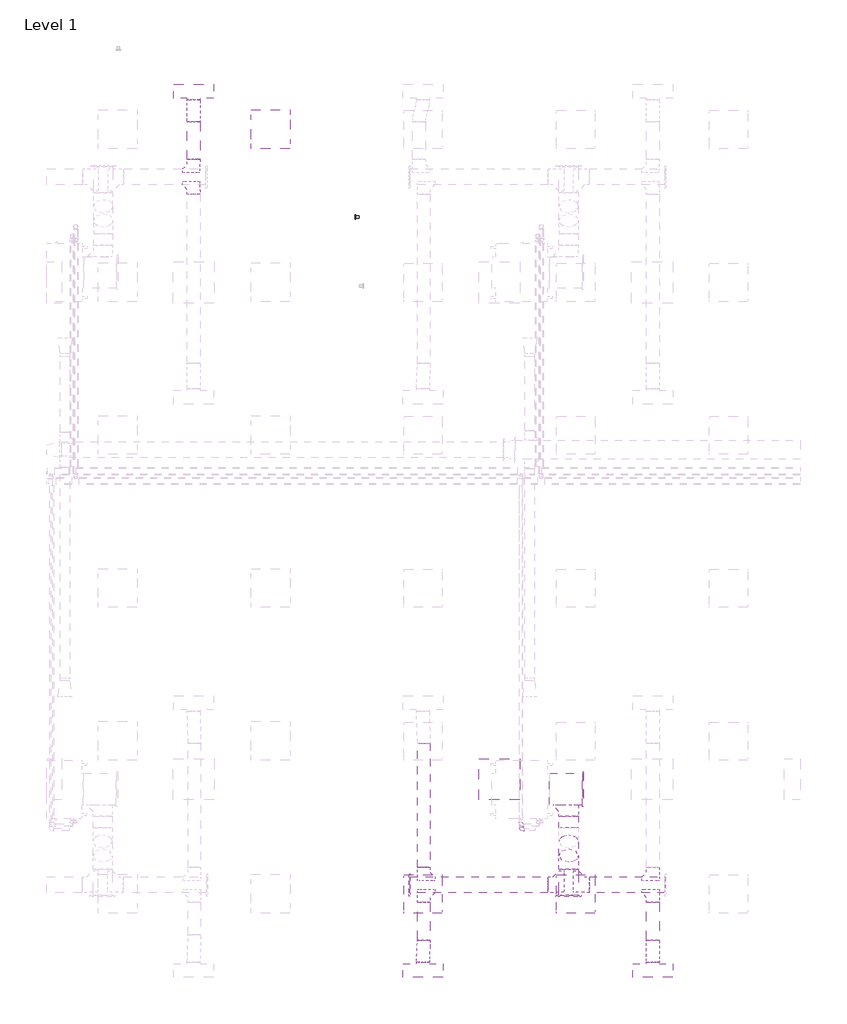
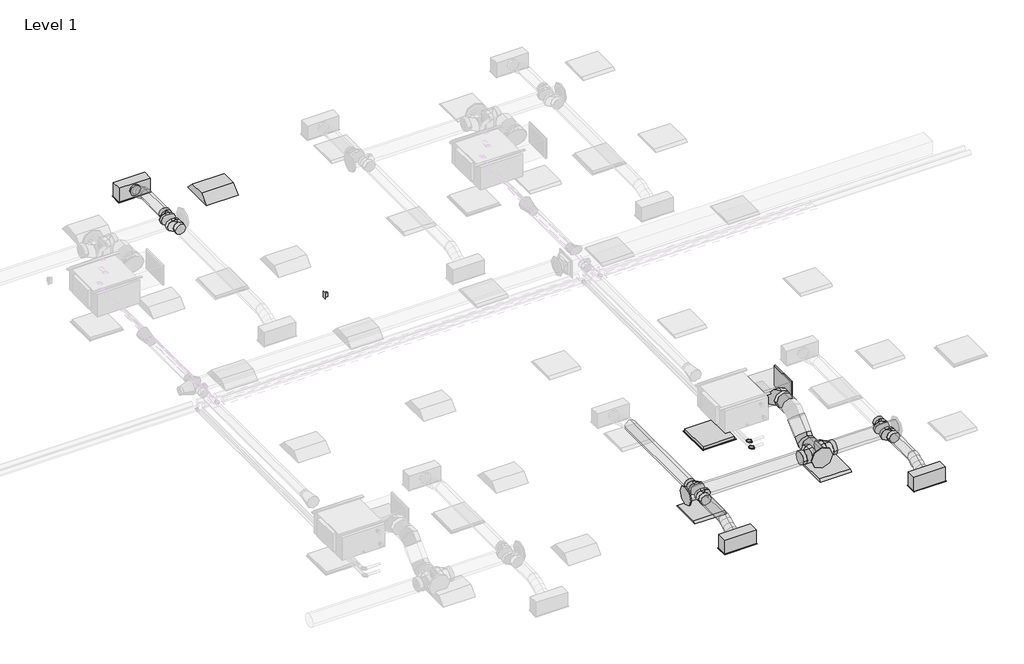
# One storey, part 6 of 30: 13 duct fittings, 13 duct segments, 4 air terminals, 3 light fixtures, 2 pipe fittings, 1 proxy.
"""IFC4 building model written with IfcOpenShell, lengths in millimetres."""

from ifc_helpers import new_model, si_unit, point, frame, frame_2d, origin, place, context, project, spatial, polyline, circle_curve, ellipse_curve, trimmed, segment, composite_curve, outline, extrude, transform, mapped, element, save
from ifc_brep_helpers import plane_surface, cylinder_surface, advanced_brep
from components import return_grille_rectangular_hosted_standard_7b12617c, supply_diffuser_with_plenum_linear_slot_hosted_8c379eed, duplex_receptacle_standard_10251bba, dw144_rectangular_blank_end_standard_8fde7d16, dw144_round_blank_end_standard_f82b0856, dw144_round_blank_end_standard_9aa061e7, dw144_round_segmented_bend_slip_joint_standard_8b80c5ae, dw144_round_shoe_branch_slip_joint1_standard_2_15a2edd8, dw144_round_shoe_branch_slip_joint1_standard_2_559552f4, dw144_round_shoe_branch_slip_joint1_standard_2_7ba9e4ed, dw144_round_shoe_branch_slip_joint1_standard_2_67b64720, light_fixture_1c7c1157, plain_recessed_lighting_fixture_2x2_277_2107ce2d, elbow_threaded_gmi_standard_b4aa7741

model = new_model("IFC4")

# Units and contexts
model_context = context("Model", 3, world=origin())
ifc_project = project(units=[si_unit("LENGTHUNIT", "METRE", prefix="MILLI")], contexts=[model_context])

# Site, building, storey
site = spatial("IfcSite", under=ifc_project)
building = spatial("IfcBuilding", under=site)
storey = spatial("IfcBuildingStorey", under=building, Name="Level 1", Elevation=3900.0)

# Air terminals
placement = place(None, origin())
return_grille_rectangular_hosted_standard_shape = return_grille_rectangular_hosted_standard_7b12617c(model_context)
element("IfcAirTerminal", 1, ObjectType="Return Grille - Rectangular - Hosted : Standard", at=placement, inside=storey, context=model_context, shape_type="MappedRepresentation", body=[
    mapped(return_grille_rectangular_hosted_standard_shape, transform((17562.2000027, 3963.2000004, 6700.0), x_axis=(1.0, 0.0, 0.0), y_axis=(0.0, -1.0, 0.0), z_axis=(0.0, 0.0, -1.0))),
])
supply_diffuser_with_plenum_linear_slot_hosted_shape = supply_diffuser_with_plenum_linear_slot_hosted_8c379eed(model_context)
element("IfcAirTerminal", 2, ObjectType="Supply Diffuser with Plenum - Linear Slot - Hosted : 24\" x 8\"-200 In Inlet  4-Slot", at=placement, inside=storey, context=model_context, shape_type="MappedRepresentation", body=[
    mapped(supply_diffuser_with_plenum_linear_slot_hosted_shape, transform((16362.2000027, 963.2000004, 6700.0), x_axis=(1.0, 0.0, 0.0), y_axis=(0.0, -1.0, 0.0), z_axis=(0.0, 0.0, -1.0))),
])
element("IfcAirTerminal", 3, ObjectType="Supply Diffuser with Plenum - Linear Slot - Hosted : 24\" x 8\"-200 In Inlet  4-Slot", at=placement, inside=storey, context=model_context, shape_type="MappedRepresentation", body=[
    mapped(supply_diffuser_with_plenum_linear_slot_hosted_shape, transform((19973.9000022, 963.2000004, 6700.0), x_axis=(1.0, 0.0, 0.0), y_axis=(0.0, -1.0, 0.0), z_axis=(0.0, 0.0, -1.0))),
])
element("IfcAirTerminal", 4, ObjectType="Supply Diffuser with Plenum - Linear Slot - Hosted : 24\" x 8\"-200 In Inlet  4-Slot", at=placement, inside=storey, context=model_context, shape_type="MappedRepresentation", body=[
    mapped(supply_diffuser_with_plenum_linear_slot_hosted_shape, transform((12762.2000027, 14763.2000004, 6700.0), x_axis=(-1.0, 0.0, 0.0), y_axis=(0.0, 1.0, 0.0), z_axis=(0.0, 0.0, -1.0))),
])

# Proxy
duplex_receptacle_standard_shape = duplex_receptacle_standard_10251bba(model_context)
element("IfcBuildingElementProxy", 5, Name="Duplex Receptacle : Standard", ObjectType="Duplex Receptacle : Standard", at=placement, inside=storey, context=model_context, shape_type="MappedRepresentation", body=[
    mapped(duplex_receptacle_standard_shape, transform((15302.2000024, 12793.416336, 4966.8), x_axis=(0.0, -1.0, 0.0), y_axis=(0.0, 0.0, 1.0), z_axis=(-1.0, 0.0, 0.0))),
])

# Duct fittings
dw144_rectangular_blank_end_standard_shape = dw144_rectangular_blank_end_standard_8fde7d16(model_context)
element("IfcDuctFitting", 6, ObjectType="DW144 Rectangular Blank End : Standard", at=placement, inside=storey, context=model_context, shape_type="MappedRepresentation", body=[
    mapped(dw144_rectangular_blank_end_standard_shape, transform((18866.2561025, 3806.0000004, 7376.3911538), x_axis=(1.0, 0.0, 0.0), y_axis=(0.0, 1.0, 0.0), z_axis=(0.0, 0.0, 1.0))),
])
dw144_round_blank_end_standard_shape = dw144_round_blank_end_standard_f82b0856(model_context)
element("IfcDuctFitting", 7, ObjectType="DW144 Round Blank End : Standard", at=placement, inside=storey, context=model_context, shape_type="MappedRepresentation", body=[
    mapped(dw144_round_blank_end_standard_shape, transform((18651.4561025, 2142.9916128, 6972.2088531), x_axis=(0.0, -1.0, 0.0), y_axis=(1.0, 0.0, 0.0), z_axis=(0.0, 0.0, 1.0))),
])
dw144_round_blank_end_standard_2_shape = dw144_round_blank_end_standard_9aa061e7(model_context)
element("IfcDuctFitting", 8, ObjectType="DW144 Round Blank End : Standard", at=placement, inside=storey, context=model_context, shape_type="MappedRepresentation", body=[
    mapped(dw144_round_blank_end_standard_2_shape, transform((16161.4561025, 2306.5018192, 6972.2088531), x_axis=(-1.0, 0.0, 0.0), y_axis=(0.0, -1.0, 0.0), z_axis=(0.0, 0.0, 1.0))),
])
dw144_round_segmented_bend_slip_joint_standard_shape = dw144_round_segmented_bend_slip_joint_standard_8b80c5ae(model_context)
element("IfcDuctFitting", 9, ObjectType="DW144 Round Segmented Bend - Slip Joint : Standard", at=placement, inside=storey, context=model_context, shape_type="MappedRepresentation", body=[
    mapped(dw144_round_segmented_bend_slip_joint_standard_shape, transform((18651.4561025, 2678.6338536, 6972.2088531), x_axis=(0.0, -0.7071067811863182, -0.7071067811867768), y_axis=(0.0, 0.7071067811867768, -0.7071067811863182), z_axis=(1.0, 0.0, 0.0))),
])
dw144_round_shoe_branch_slip_joint1_standard_2_shape = dw144_round_shoe_branch_slip_joint1_standard_2_15a2edd8(model_context)
element("IfcDuctFitting", 10, ObjectType="DW144 Round Shoe Branch - Slip Joint1 : Standard 2", at=placement, inside=storey, context=model_context, shape_type="MappedRepresentation", body=[
    mapped(dw144_round_shoe_branch_slip_joint1_standard_2_shape, transform((12762.2000027, 13544.8981817, 6972.2088531), x_axis=(0.0, 1.0, 0.0), y_axis=(1.0, 0.0, 0.0), z_axis=(0.0, 0.0, -1.0))),
])
element("IfcDuctFitting", 11, ObjectType="DW144 Round Shoe Branch - Slip Joint1 : Standard 2", at=placement, inside=storey, context=model_context, shape_type="MappedRepresentation", body=[
    mapped(dw144_round_shoe_branch_slip_joint1_standard_2_shape, transform((12762.2000027, 13294.8981817, 6972.2088531), x_axis=(0.0, -1.0, 0.0), y_axis=(1.0, 0.0, 0.0), z_axis=(0.0, 0.0, 1.0))),
])
element("IfcDuctFitting", 12, ObjectType="DW144 Round Shoe Branch - Slip Joint1 : Standard 2", at=placement, inside=storey, context=model_context, shape_type="MappedRepresentation", body=[
    mapped(dw144_round_shoe_branch_slip_joint1_standard_2_shape, transform((16373.9000022, 2181.5018192, 6972.2088531), x_axis=(0.0, -1.0, 0.0), y_axis=(-1.0, 0.0, 0.0), z_axis=(0.0, 0.0, -1.0))),
])
element("IfcDuctFitting", 13, ObjectType="DW144 Round Shoe Branch - Slip Joint1 : Standard 2", at=placement, inside=storey, context=model_context, shape_type="MappedRepresentation", body=[
    mapped(dw144_round_shoe_branch_slip_joint1_standard_2_shape, transform((16373.9000022, 2431.5018192, 6972.2088531), x_axis=(0.0, 1.0, 0.0), y_axis=(-1.0, 0.0, 0.0), z_axis=(0.0, 0.0, 1.0))),
])
dw144_round_shoe_branch_slip_joint1_standard_2_2_shape = dw144_round_shoe_branch_slip_joint1_standard_2_559552f4(model_context)
element("IfcDuctFitting", 14, ObjectType="DW144 Round Shoe Branch - Slip Joint1 : Standard 2", at=placement, inside=storey, context=model_context, shape_type="MappedRepresentation", body=[
    mapped(dw144_round_shoe_branch_slip_joint1_standard_2_2_shape, transform((19973.9000022, 2181.5018192, 6972.2088531), x_axis=(0.0, -1.0, 0.0), y_axis=(-1.0, 0.0, 0.0), z_axis=(0.0, 0.0, -1.0))),
])
element("IfcDuctFitting", 15, ObjectType="DW144 Round Shoe Branch - Slip Joint1 : Standard 2", at=placement, inside=storey, context=model_context, shape_type="MappedRepresentation", body=[
    mapped(dw144_round_shoe_branch_slip_joint1_standard_2_2_shape, transform((19973.9000022, 2431.5018192, 6972.2088531), x_axis=(0.0, 1.0, 0.0), y_axis=(-1.0, 0.0, 0.0), z_axis=(0.0, 0.0, 1.0))),
])
dw144_round_shoe_branch_slip_joint1_standard_2_3_shape = dw144_round_shoe_branch_slip_joint1_standard_2_7ba9e4ed(model_context)
element("IfcDuctFitting", 16, ObjectType="DW144 Round Shoe Branch - Slip Joint1 : Standard 2", at=placement, inside=storey, context=model_context, shape_type="MappedRepresentation", body=[
    mapped(dw144_round_shoe_branch_slip_joint1_standard_2_3_shape, transform((18651.4561025, 3556.0000004, 7369.575), x_axis=(0.0, -1.0, 0.0), y_axis=(-1.0, 0.0, 0.0), z_axis=(0.0, 0.0, -1.0))),
])
dw144_round_shoe_branch_slip_joint1_standard_2_4_shape = dw144_round_shoe_branch_slip_joint1_standard_2_67b64720(model_context)
element("IfcDuctFitting", 17, ObjectType="DW144 Round Shoe Branch - Slip Joint1 : Standard 2", at=placement, inside=storey, context=model_context, shape_type="MappedRepresentation", body=[
    mapped(dw144_round_shoe_branch_slip_joint1_standard_2_4_shape, transform((18801.4561025, 2306.5018192, 6972.2088531), x_axis=(1.0, 0.0, 0.0), y_axis=(0.0, -1.0, 0.0), z_axis=(0.0, 0.0, -1.0))),
])
element("IfcDuctFitting", 18, ObjectType="DW144 Round Shoe Branch - Slip Joint1 : Standard 2", at=placement, inside=storey, context=model_context, shape_type="MappedRepresentation", body=[
    mapped(dw144_round_shoe_branch_slip_joint1_standard_2_4_shape, transform((18501.4561025, 2306.5018192, 6972.2088531), x_axis=(-1.0, 0.0, 0.0), y_axis=(0.0, -1.0, 0.0), z_axis=(0.0, 0.0, 1.0))),
])

# Duct segments
element("IfcDuctSegment", 19, ObjectType="DW144 Flanged Med Radius Bend / Shoe Branch", at=placement, inside=storey, context=model_context, shape_type="SweptSolid", body=[
    extrude(outline(polyline([(18346.6561025, 3556.0000004), (18346.6561025, 4056.0000004), (18866.2561025, 4056.0000004), (18866.2561025, 3556.0000004), (18346.6561025, 3556.0000004)])), frame((0.0, 0.0, 7201.3911538), z_axis=(0.0, 0.0, 1.0), x_axis=(1.0, 0.0, 0.0)), (0.0, 0.0, 1.0), 350.0),
])
element("IfcDuctSegment", 20, ObjectType="DW144 Segmented Bend / Shoe Branch", at=placement, inside=storey, context=model_context, shape_type="SweptSolid", body=[
    extrude(outline(composite_curve([segment(trimmed(circle_curve(frame_2d((6972.2088531, 12762.2000027)), 100.0), [point((6972.2088531, 12862.2000027))], [point((7072.2088531, 12762.2000027))], False, "CARTESIAN"), True, "CONTINUOUS"), segment(trimmed(circle_curve(frame_2d((6972.2088531, 12762.2000027)), 100.0), [point((7072.2088531, 12762.2000027))], [point((6972.2088531, 12662.2000027))], False, "CARTESIAN"), True, "CONTINUOUS"), segment(trimmed(circle_curve(frame_2d((6972.2088531, 12762.2000027)), 100.0), [point((6972.2088531, 12662.2000027))], [point((6872.2088531, 12762.2000027))], False, "CARTESIAN"), True, "CONTINUOUS"), segment(trimmed(circle_curve(frame_2d((6972.2088531, 12762.2000027)), 100.0), [point((6872.2088531, 12762.2000027))], [point((6972.2088531, 12862.2000027))], False, "CARTESIAN"), True, "CONTINUOUS")], self_intersect=False)), frame((0.0, 13694.8981817, 0.0), z_axis=(0.0, 1.0, 0.0), x_axis=(0.0, 0.0, 1.0)), (0.0, 0.0, 1.0), 590.0),
])
element("IfcDuctSegment", 21, ObjectType="DW144 Segmented Bend / Shoe Branch", at=placement, inside=storey, context=model_context, shape_type="SweptSolid", body=[
    extrude(outline(composite_curve([segment(trimmed(circle_curve(frame_2d((7369.575, 18651.4561025)), 150.0), [point((7369.575, 18501.4561025))], [point((7219.575, 18651.4561025))], False, "CARTESIAN"), True, "CONTINUOUS"), segment(trimmed(circle_curve(frame_2d((7369.575, 18651.4561025)), 150.0), [point((7219.575, 18651.4561025))], [point((7369.575, 18801.4561025))], False, "CARTESIAN"), True, "CONTINUOUS"), segment(trimmed(circle_curve(frame_2d((7369.575, 18651.4561025)), 150.0), [point((7369.575, 18801.4561025))], [point((7519.575, 18651.4561025))], False, "CARTESIAN"), True, "CONTINUOUS"), segment(trimmed(circle_curve(frame_2d((7369.575, 18651.4561025)), 150.0), [point((7519.575, 18651.4561025))], [point((7369.575, 18501.4561025))], False, "CARTESIAN"), True, "CONTINUOUS")], self_intersect=False)), frame((0.0, 3200.2640691, 0.0), z_axis=(0.0, 1.0, 0.0), x_axis=(0.0, 0.0, 1.0)), (0.0, 0.0, 1.0), 180.7359313),
])
element("IfcDuctSegment", 22, ObjectType="DW144 Segmented Bend / Shoe Branch", at=placement, inside=storey, context=model_context, shape_type="SweptSolid", body=[
    extrude(outline(composite_curve([segment(trimmed(circle_curve(frame_2d((6972.2088531, 18651.4561025)), 150.0), [point((6972.2088531, 18501.4561025))], [point((6822.2088531, 18651.4561025))], False, "CARTESIAN"), True, "CONTINUOUS"), segment(trimmed(circle_curve(frame_2d((6972.2088531, 18651.4561025)), 150.0), [point((6822.2088531, 18651.4561025))], [point((6972.2088531, 18801.4561025))], False, "CARTESIAN"), True, "CONTINUOUS"), segment(trimmed(circle_curve(frame_2d((6972.2088531, 18651.4561025)), 150.0), [point((6972.2088531, 18801.4561025))], [point((7122.2088531, 18651.4561025))], False, "CARTESIAN"), True, "CONTINUOUS"), segment(trimmed(circle_curve(frame_2d((6972.2088531, 18651.4561025)), 150.0), [point((7122.2088531, 18651.4561025))], [point((6972.2088531, 18501.4561025))], False, "CARTESIAN"), True, "CONTINUOUS")], self_intersect=False)), frame((0.0, 2142.9916128, 0.0), z_axis=(0.0, 1.0, 0.0), x_axis=(0.0, 0.0, 1.0)), (0.0, 0.0, 1.0), 411.3781721),
])
element("IfcDuctSegment", 23, ObjectType="DW144 Segmented Bend / Shoe Branch", at=placement, inside=storey, context=model_context, shape_type="SweptSolid", body=[
    extrude(outline(composite_curve([segment(trimmed(circle_curve(frame_2d((0.0, -150.0)), 150.0), [point((-150.0, -150.0))], [point((0.0, 0.0))], False, "CARTESIAN"), True, "CONTINUOUS"), segment(trimmed(circle_curve(frame_2d((0.0, -150.0)), 150.0), [point((0.0, 0.0))], [point((150.0, -150.0))], False, "CARTESIAN"), True, "CONTINUOUS"), segment(trimmed(circle_curve(frame_2d((0.0, -150.0)), 150.0), [point((150.0, -150.0))], [point((0.0, -300.0))], False, "CARTESIAN"), True, "CONTINUOUS"), segment(trimmed(circle_curve(frame_2d((0.0, -150.0)), 150.0), [point((0.0, -300.0))], [point((-150.0, -150.0))], False, "CARTESIAN"), True, "CONTINUOUS")], self_intersect=False)), frame((18651.4561025, 2872.5678364, 6954.0108016), z_axis=(0.0, 0.7071067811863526, 0.7071067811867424), x_axis=(1.0, 0.0, 0.0)), (0.0, 0.0, 1.0), 313.4324567),
])
element("IfcDuctSegment", 24, ObjectType="DW144 Segmented Bend / Shoe Branch", at=placement, inside=storey, context=model_context, shape_type="SweptSolid", body=[
    extrude(outline(composite_curve([segment(trimmed(circle_curve(frame_2d((2306.5018192, 6972.2088531)), 125.0), [point((2181.5018192, 6972.2088531))], [point((2306.5018192, 7097.2088531))], False, "CARTESIAN"), True, "CONTINUOUS"), segment(trimmed(circle_curve(frame_2d((2306.5018192, 6972.2088531)), 125.0), [point((2306.5018192, 7097.2088531))], [point((2431.5018192, 6972.2088531))], False, "CARTESIAN"), True, "CONTINUOUS"), segment(trimmed(circle_curve(frame_2d((2306.5018192, 6972.2088531)), 125.0), [point((2431.5018192, 6972.2088531))], [point((2306.5018192, 6847.2088531))], False, "CARTESIAN"), True, "CONTINUOUS"), segment(trimmed(circle_curve(frame_2d((2306.5018192, 6972.2088531)), 125.0), [point((2306.5018192, 6847.2088531))], [point((2181.5018192, 6972.2088531))], False, "CARTESIAN"), True, "CONTINUOUS")], self_intersect=False)), frame((18976.4561025, 0.0, 0.0), z_axis=(1.0, 0.0, 0.0), x_axis=(0.0, 1.0, 0.0)), (0.0, 0.0, 1.0), 1185.0),
])
element("IfcDuctSegment", 25, ObjectType="DW144 Segmented Bend / Shoe Branch", at=placement, inside=storey, context=model_context, shape_type="SweptSolid", body=[
    extrude(outline(composite_curve([segment(trimmed(circle_curve(frame_2d((2306.5018192, 6972.2088531)), 125.0), [point((2431.5018192, 6972.2088531))], [point((2306.5018192, 6847.2088531))], False, "CARTESIAN"), True, "CONTINUOUS"), segment(trimmed(circle_curve(frame_2d((2306.5018192, 6972.2088531)), 125.0), [point((2306.5018192, 6847.2088531))], [point((2181.5018192, 6972.2088531))], False, "CARTESIAN"), True, "CONTINUOUS"), segment(trimmed(circle_curve(frame_2d((2306.5018192, 6972.2088531)), 125.0), [point((2181.5018192, 6972.2088531))], [point((2306.5018192, 7097.2088531))], False, "CARTESIAN"), True, "CONTINUOUS"), segment(trimmed(circle_curve(frame_2d((2306.5018192, 6972.2088531)), 125.0), [point((2306.5018192, 7097.2088531))], [point((2431.5018192, 6972.2088531))], False, "CARTESIAN"), True, "CONTINUOUS")], self_intersect=False)), frame((16161.4561025, 0.0, 0.0), z_axis=(1.0, 0.0, 0.0), x_axis=(0.0, 1.0, 0.0)), (0.0, 0.0, 1.0), 2165.0),
])
element("IfcDuctSegment", 26, ObjectType="DW144 Segmented Bend / Shoe Branch", at=placement, inside=storey, context=model_context, shape_type="SweptSolid", body=[
    extrude(outline(composite_curve([segment(trimmed(circle_curve(frame_2d((6972.2088531, 19973.9000022)), 100.0), [point((6972.2088531, 19873.9000022))], [point((6872.2088531, 19973.9000022))], False, "CARTESIAN"), True, "CONTINUOUS"), segment(trimmed(circle_curve(frame_2d((6972.2088531, 19973.9000022)), 100.0), [point((6872.2088531, 19973.9000022))], [point((6972.2088531, 20073.9000022))], False, "CARTESIAN"), True, "CONTINUOUS"), segment(trimmed(circle_curve(frame_2d((6972.2088531, 19973.9000022)), 100.0), [point((6972.2088531, 20073.9000022))], [point((7072.2088531, 19973.9000022))], False, "CARTESIAN"), True, "CONTINUOUS"), segment(trimmed(circle_curve(frame_2d((6972.2088531, 19973.9000022)), 100.0), [point((7072.2088531, 19973.9000022))], [point((6972.2088531, 19873.9000022))], False, "CARTESIAN"), True, "CONTINUOUS")], self_intersect=False)), frame((0.0, 1441.5018192, 0.0), z_axis=(0.0, 1.0, 0.0), x_axis=(0.0, 0.0, 1.0)), (0.0, 0.0, 1.0), 590.0),
])
element("IfcDuctSegment", 27, ObjectType="DW144 Segmented Bend / Shoe Branch", at=placement, inside=storey, context=model_context, shape_type="SweptSolid", body=[
    extrude(outline(composite_curve([segment(trimmed(circle_curve(frame_2d((6972.2088531, 16373.9000022)), 100.0), [point((6972.2088531, 16473.9000022))], [point((7072.2088531, 16373.9000022))], False, "CARTESIAN"), True, "CONTINUOUS"), segment(trimmed(circle_curve(frame_2d((6972.2088531, 16373.9000022)), 100.0), [point((7072.2088531, 16373.9000022))], [point((6972.2088531, 16273.9000022))], False, "CARTESIAN"), True, "CONTINUOUS"), segment(trimmed(circle_curve(frame_2d((6972.2088531, 16373.9000022)), 100.0), [point((6972.2088531, 16273.9000022))], [point((6872.2088531, 16373.9000022))], False, "CARTESIAN"), True, "CONTINUOUS"), segment(trimmed(circle_curve(frame_2d((6972.2088531, 16373.9000022)), 100.0), [point((6872.2088531, 16373.9000022))], [point((6972.2088531, 16473.9000022))], False, "CARTESIAN"), True, "CONTINUOUS")], self_intersect=False)), frame((0.0, 1441.5018192, 0.0), z_axis=(0.0, 1.0, 0.0), x_axis=(0.0, 0.0, 1.0)), (0.0, 0.0, 1.0), 590.0),
])
element("IfcDuctSegment", 28, ObjectType="DW144 Segmented Bend / Shoe Branch", at=placement, inside=storey, context=model_context, shape_type="SweptSolid", body=[
    extrude(outline(composite_curve([segment(trimmed(circle_curve(frame_2d((6972.2088531, 16373.9000022)), 100.0), [point((6972.2088531, 16473.9000022))], [point((7072.2088531, 16373.9000022))], False, "CARTESIAN"), True, "CONTINUOUS"), segment(trimmed(circle_curve(frame_2d((6972.2088531, 16373.9000022)), 100.0), [point((7072.2088531, 16373.9000022))], [point((6972.2088531, 16273.9000022))], False, "CARTESIAN"), True, "CONTINUOUS"), segment(trimmed(circle_curve(frame_2d((6972.2088531, 16373.9000022)), 100.0), [point((6972.2088531, 16273.9000022))], [point((6872.2088531, 16373.9000022))], False, "CARTESIAN"), True, "CONTINUOUS"), segment(trimmed(circle_curve(frame_2d((6972.2088531, 16373.9000022)), 100.0), [point((6872.2088531, 16373.9000022))], [point((6972.2088531, 16473.9000022))], False, "CARTESIAN"), True, "CONTINUOUS")], self_intersect=False)), frame((0.0, 2581.5018192, 0.0), z_axis=(0.0, 1.0, 0.0), x_axis=(0.0, 0.0, 1.0)), (0.0, 0.0, 1.0), 1950.0),
])
element("IfcDuctSegment", 29, ObjectType="Flex - Round", at=placement, inside=storey, context=model_context, shape_type="AdvancedBrep", body=[
    advanced_brep(
    [(12662.2000027, 14284.8981817, 6972.2088531), (12762.2000027, 14284.8981817, 6872.2088531), (12862.2000027, 14284.8981817, 6972.2088531), (12762.2000027, 14284.8981817, 7072.2088531), (12662.2000027, 14305.1168804, 6972.2088531), (12762.2000027, 14291.9969011, 6872.2088531), (12862.2000027, 14305.1168804, 6972.2088531), (12762.2000027, 14318.2368598, 7072.2088531), (12662.2000027, 14634.3000004, 6854.4), (12762.2000027, 14634.3000004, 6954.4), (12862.2000027, 14634.3000004, 6854.4), (12762.2000027, 14634.3000004, 6754.4), (12662.2000027, 14374.0604937, 6953.8012198), (12762.2000027, 14339.4842635, 6859.5299419), (12862.2000027, 14374.0604937, 6953.8012198), (12762.2000027, 14408.6367238, 7048.0724978), (12662.2000027, 14459.599091, 6913.3044266), (12762.2000027, 14416.809003, 6822.9218599), (12862.2000027, 14459.599091, 6913.3044266), (12762.2000027, 14502.3891791, 7003.6869932), (12662.2000027, 14545.1376884, 6872.8076333), (12762.2000027, 14510.5614583, 6778.5363553), (12862.2000027, 14545.1376884, 6872.8076333), (12762.2000027, 14579.7139186, 6967.0789113), (12662.2000027, 14614.0813017, 6854.4), (12762.2000027, 14600.9613223, 6754.4), (12862.2000027, 14614.0813017, 6854.4), (12762.2000027, 14627.201281, 6954.4)],
    [
        (0, 1, circle_curve(frame((12762.2000027, 14284.8981817, 6972.2088531), z_axis=(0.0, -1.0, 0.0), x_axis=(-1.0, 0.0, 0.0)), 100.0)),
        (1, 2, circle_curve(frame((12762.2000027, 14284.8981817, 6972.2088531), z_axis=(0.0, -1.0, 0.0), x_axis=(-1.0, 0.0, 0.0)), 100.0)),
        (2, 3, circle_curve(frame((12762.2000027, 14284.8981817, 6972.2088531), z_axis=(0.0, -1.0, 0.0), x_axis=(-1.0, 0.0, 0.0)), 100.0)),
        (3, 0, circle_curve(frame((12762.2000027, 14284.8981817, 6972.2088531), z_axis=(0.0, -1.0, 0.0), x_axis=(-1.0, 0.0, 0.0)), 100.0)),
        (0, 4),
        (4, 5, ellipse_curve(frame((12762.2000027, 14305.1168804, 6972.2088531), z_axis=(0.0, -0.9915028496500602, 0.1300849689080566), x_axis=(0.0, -0.13008496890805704, -0.9915028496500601)), 100.8569971, 100.0)),
        (5, 1),
        (5, 6, ellipse_curve(frame((12762.2000027, 14305.1168804, 6972.2088531), z_axis=(0.0, -0.9915028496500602, 0.1300849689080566), x_axis=(0.0, -0.13008496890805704, -0.9915028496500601)), 100.8569971, 100.0)),
        (6, 2),
        (6, 7, ellipse_curve(frame((12762.2000027, 14305.1168804, 6972.2088531), z_axis=(0.0, -0.9915028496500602, 0.1300849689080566), x_axis=(0.0, -0.13008496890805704, -0.9915028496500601)), 100.8569971, 100.0)),
        (7, 3),
        (7, 4, ellipse_curve(frame((12762.2000027, 14305.1168804, 6972.2088531), z_axis=(0.0, -0.9915028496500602, 0.1300849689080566), x_axis=(0.0, -0.13008496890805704, -0.9915028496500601)), 100.8569971, 100.0)),
        (8, 9, circle_curve(frame((12762.2000027, 14634.3000004, 6854.4), z_axis=(0.0, 1.0, 0.0), x_axis=(-1.0, 0.0, 0.0)), 100.0)),
        (9, 10, circle_curve(frame((12762.2000027, 14634.3000004, 6854.4), z_axis=(0.0, 1.0, 0.0), x_axis=(-1.0, 0.0, 0.0)), 100.0)),
        (10, 11, circle_curve(frame((12762.2000027, 14634.3000004, 6854.4), z_axis=(0.0, 1.0, 0.0), x_axis=(-1.0, 0.0, 0.0)), 100.0)),
        (11, 8, circle_curve(frame((12762.2000027, 14634.3000004, 6854.4), z_axis=(0.0, 1.0, 0.0), x_axis=(-1.0, 0.0, 0.0)), 100.0)),
        (4, 12),
        (12, 13, ellipse_curve(frame((12762.2000027, 14374.0604937, 6953.8012198), z_axis=(0.0, -0.9388438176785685, 0.3443432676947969), x_axis=(0.0, -0.34434326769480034, -0.9388438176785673)), 100.4120986, 100.0)),
        (13, 5),
        (13, 14, ellipse_curve(frame((12762.2000027, 14374.0604937, 6953.8012198), z_axis=(0.0, -0.9388438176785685, 0.3443432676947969), x_axis=(0.0, -0.34434326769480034, -0.9388438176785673)), 100.4120986, 100.0)),
        (14, 6),
        (14, 15, ellipse_curve(frame((12762.2000027, 14374.0604937, 6953.8012198), z_axis=(0.0, -0.9388438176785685, 0.3443432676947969), x_axis=(0.0, -0.34434326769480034, -0.9388438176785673)), 100.4120986, 100.0)),
        (15, 7),
        (15, 12, ellipse_curve(frame((12762.2000027, 14374.0604937, 6953.8012198), z_axis=(0.0, -0.9388438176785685, 0.3443432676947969), x_axis=(0.0, -0.34434326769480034, -0.9388438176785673)), 100.4120986, 100.0)),
        (12, 16),
        (16, 17, circle_curve(frame((12762.2000027, 14459.599091, 6913.3044266), z_axis=(0.0, -0.9038256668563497, 0.4279008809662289), x_axis=(-1.0, 0.0, 0.0)), 100.0)),
        (17, 13),
        (17, 18, circle_curve(frame((12762.2000027, 14459.599091, 6913.3044266), z_axis=(0.0, -0.9038256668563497, 0.4279008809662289), x_axis=(-1.0, 0.0, 0.0)), 100.0)),
        (18, 14),
        (18, 19, circle_curve(frame((12762.2000027, 14459.599091, 6913.3044266), z_axis=(0.0, -0.9038256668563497, 0.4279008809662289), x_axis=(-1.0, 0.0, 0.0)), 100.0)),
        (19, 15),
        (19, 16, circle_curve(frame((12762.2000027, 14459.599091, 6913.3044266), z_axis=(0.0, -0.9038256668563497, 0.4279008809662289), x_axis=(-1.0, 0.0, 0.0)), 100.0)),
        (16, 20),
        (20, 21, ellipse_curve(frame((12762.2000027, 14545.1376884, 6872.8076333), z_axis=(0.0, -0.93884381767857, 0.34434326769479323), x_axis=(0.0, 0.34434326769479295, 0.9388438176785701)), 100.4120986, 100.0)),
        (21, 17),
        (21, 22, ellipse_curve(frame((12762.2000027, 14545.1376884, 6872.8076333), z_axis=(0.0, -0.93884381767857, 0.34434326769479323), x_axis=(0.0, 0.34434326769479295, 0.9388438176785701)), 100.4120986, 100.0)),
        (22, 18),
        (22, 23, ellipse_curve(frame((12762.2000027, 14545.1376884, 6872.8076333), z_axis=(0.0, -0.93884381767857, 0.34434326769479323), x_axis=(0.0, 0.34434326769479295, 0.9388438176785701)), 100.4120986, 100.0)),
        (23, 19),
        (23, 20, ellipse_curve(frame((12762.2000027, 14545.1376884, 6872.8076333), z_axis=(0.0, -0.93884381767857, 0.34434326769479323), x_axis=(0.0, 0.34434326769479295, 0.9388438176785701)), 100.4120986, 100.0)),
        (20, 24),
        (24, 25, ellipse_curve(frame((12762.2000027, 14614.0813017, 6854.4), z_axis=(0.0, -0.9915028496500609, 0.13008496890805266), x_axis=(0.0, 0.1300849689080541, 0.9915028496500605)), 100.8569971, 100.0)),
        (25, 21),
        (25, 26, ellipse_curve(frame((12762.2000027, 14614.0813017, 6854.4), z_axis=(0.0, -0.9915028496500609, 0.13008496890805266), x_axis=(0.0, 0.1300849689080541, 0.9915028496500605)), 100.8569971, 100.0)),
        (26, 22),
        (26, 27, ellipse_curve(frame((12762.2000027, 14614.0813017, 6854.4), z_axis=(0.0, -0.9915028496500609, 0.13008496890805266), x_axis=(0.0, 0.1300849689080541, 0.9915028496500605)), 100.8569971, 100.0)),
        (27, 23),
        (27, 24, ellipse_curve(frame((12762.2000027, 14614.0813017, 6854.4), z_axis=(0.0, -0.9915028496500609, 0.13008496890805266), x_axis=(0.0, 0.1300849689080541, 0.9915028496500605)), 100.8569971, 100.0)),
        (24, 8),
        (11, 25),
        (10, 26),
        (9, 27),
    ],
    [
        plane_surface(frame((12662.2000027, 14284.8981817, 6972.2088531), z_axis=(0.0, -1.0, 0.0), x_axis=(0.0, 0.0, 1.0))),
        cylinder_surface(frame((12762.2000027, 14284.8981817, 6972.2088531), z_axis=(0.0, -1.0, 0.0), x_axis=(-1.0, 0.0, 0.0)), 100.0),
        plane_surface(frame((12662.2000027, 14634.3000004, 6854.4), z_axis=(0.0, 1.0, 0.0), x_axis=(0.0, 0.0, 1.0))),
        cylinder_surface(frame((12762.2000027, 14305.1168804, 6972.2088531), z_axis=(0.0, -0.9661558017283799, 0.2579592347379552), x_axis=(-1.0, 0.0, 0.0)), 100.0),
        cylinder_surface(frame((12762.2000027, 14374.0604937, 6953.8012198), z_axis=(0.0, -0.9038256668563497, 0.4279008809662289), x_axis=(-1.0, 0.0, 0.0)), 100.0),
        cylinder_surface(frame((12762.2000027, 14459.599091, 6913.3044266), z_axis=(0.0, -0.9038256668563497, 0.4279008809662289), x_axis=(-1.0, 0.0, 0.0)), 100.0),
        cylinder_surface(frame((12762.2000027, 14545.1376884, 6872.8076333), z_axis=(0.0, -0.966155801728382, 0.2579592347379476), x_axis=(-1.0, 0.0, 0.0)), 100.0),
        cylinder_surface(frame((12762.2000027, 14614.0813017, 6854.4), z_axis=(0.0, -1.0, 0.0), x_axis=(-1.0, 0.0, 0.0)), 100.0),
    ],
    [
        (0, [[1, 2, 3, 4]]),
        (1, [[-1, 5, 6, 7]]),
        (1, [[-2, -7, 8, 9]]),
        (1, [[-3, -9, 10, 11]]),
        (1, [[-4, -11, 12, -5]]),
        (2, [[13, 14, 15, 16]]),
        (3, [[-6, 17, 18, 19]]),
        (3, [[-8, -19, 20, 21]]),
        (3, [[-10, -21, 22, 23]]),
        (3, [[-12, -23, 24, -17]]),
        (4, [[-18, 25, 26, 27]]),
        (4, [[-20, -27, 28, 29]]),
        (4, [[-22, -29, 30, 31]]),
        (4, [[-24, -31, 32, -25]]),
        (5, [[-26, 33, 34, 35]]),
        (5, [[-28, -35, 36, 37]]),
        (5, [[-30, -37, 38, 39]]),
        (5, [[-32, -39, 40, -33]]),
        (6, [[-34, 41, 42, 43]]),
        (6, [[-36, -43, 44, 45]]),
        (6, [[-38, -45, 46, 47]]),
        (6, [[-40, -47, 48, -41]]),
        (7, [[-42, 49, -16, 50]]),
        (7, [[-44, -50, -15, 51]]),
        (7, [[-46, -51, -14, 52]]),
        (7, [[-48, -52, -13, -49]]),
    ],
),
])
element("IfcDuctSegment", 30, ObjectType="Flex - Round", at=placement, inside=storey, context=model_context, shape_type="AdvancedBrep", body=[
    advanced_brep(
    [(16473.9000022, 1441.5018192, 6972.2088531), (16373.9000022, 1441.5018192, 6872.2088531), (16273.9000022, 1441.5018192, 6972.2088531), (16373.9000022, 1441.5018192, 7072.2088531), (16473.9000022, 1419.9886644, 6972.2088531), (16373.9000022, 1434.4041273, 6872.2088531), (16273.9000022, 1422.5932881, 6972.2088531), (16373.9000022, 1408.1778252, 7072.2088531), (16462.2000027, 1092.1000004, 6854.4), (16362.2000027, 1092.1000004, 6954.4), (16262.2000027, 1092.1000004, 6854.4), (16362.2000027, 1092.1000004, 6754.4), (16472.0154345, 1348.8904029, 6953.2328893), (16372.6402079, 1386.8764181, 6859.5238159), (16272.1283201, 1355.7538157, 6954.3695504), (16371.5035467, 1317.7678004, 7048.0786237), (16467.9552415, 1262.5544078, 6912.3502664), (16369.0041626, 1309.5595036, 6822.9119919), (16268.1447633, 1271.0474118, 6914.2585867), (16367.0958423, 1224.0423161, 7003.6968612), (16463.9716847, 1177.8480039, 6872.2393027), (16364.5964582, 1215.8340192, 6778.5302294), (16264.0845704, 1184.7114168, 6873.3759639), (16363.459797, 1146.7254015, 6967.0850372), (16462.2000027, 1111.0085316, 6854.4), (16362.2000027, 1125.4239944, 6754.4), (16262.2000027, 1113.6131552, 6854.4), (16362.2000027, 1099.1976924, 6954.4)],
    [
        (0, 1, circle_curve(frame((16373.9000022, 1441.5018192, 6972.2088531), z_axis=(0.0, 1.0, 0.0), x_axis=(1.0, 0.0, 0.0)), 100.0)),
        (1, 2, circle_curve(frame((16373.9000022, 1441.5018192, 6972.2088531), z_axis=(0.0, 1.0, 0.0), x_axis=(1.0, 0.0, 0.0)), 100.0)),
        (2, 3, circle_curve(frame((16373.9000022, 1441.5018192, 6972.2088531), z_axis=(0.0, 1.0, 0.0), x_axis=(1.0, 0.0, 0.0)), 100.0)),
        (3, 0, circle_curve(frame((16373.9000022, 1441.5018192, 6972.2088531), z_axis=(0.0, 1.0, 0.0), x_axis=(1.0, 0.0, 0.0)), 100.0)),
        (0, 4),
        (4, 5, ellipse_curve(frame((16373.9000022, 1421.2909763, 6972.2088531), z_axis=(0.012911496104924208, 0.9914289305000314, 0.1300075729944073), x_axis=(-0.09798018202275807, 0.130647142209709, -0.9865754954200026)), 100.8645168, 100.0)),
        (5, 1),
        (5, 6, ellipse_curve(frame((16373.9000022, 1421.2909763, 6972.2088531), z_axis=(0.012911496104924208, 0.9914289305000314, 0.1300075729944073), x_axis=(-0.09798018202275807, 0.130647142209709, -0.9865754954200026)), 100.8645168, 100.0)),
        (6, 2),
        (6, 7, ellipse_curve(frame((16373.9000022, 1421.2909763, 6972.2088531), z_axis=(0.012911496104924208, 0.9914289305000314, 0.1300075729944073), x_axis=(-0.09798018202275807, 0.130647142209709, -0.9865754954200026)), 100.8645168, 100.0)),
        (7, 3),
        (7, 4, ellipse_curve(frame((16373.9000022, 1421.2909763, 6972.2088531), z_axis=(0.012911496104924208, 0.9914289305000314, 0.1300075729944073), x_axis=(-0.09798018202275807, 0.130647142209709, -0.9865754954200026)), 100.8645168, 100.0)),
        (8, 9, circle_curve(frame((16362.2000027, 1092.1000004, 6854.4), z_axis=(0.0, -1.0, 0.0), x_axis=(1.0, 0.0, 0.0)), 100.0)),
        (9, 10, circle_curve(frame((16362.2000027, 1092.1000004, 6854.4), z_axis=(0.0, -1.0, 0.0), x_axis=(1.0, 0.0, 0.0)), 100.0)),
        (10, 11, circle_curve(frame((16362.2000027, 1092.1000004, 6854.4), z_axis=(0.0, -1.0, 0.0), x_axis=(1.0, 0.0, 0.0)), 100.0)),
        (11, 8, circle_curve(frame((16362.2000027, 1092.1000004, 6854.4), z_axis=(0.0, -1.0, 0.0), x_axis=(1.0, 0.0, 0.0)), 100.0)),
        (4, 12),
        (12, 13, ellipse_curve(frame((16372.0718773, 1352.3221093, 6953.8012198), z_axis=(0.034174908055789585, 0.9383065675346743, 0.3441116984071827), x_axis=(-0.09273024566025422, 0.34580454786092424, -0.9337131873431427)), 100.4159667, 100.0)),
        (13, 5),
        (13, 14, ellipse_curve(frame((16372.0718773, 1352.3221093, 6953.8012198), z_axis=(0.034174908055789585, 0.9383065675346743, 0.3441116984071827), x_axis=(-0.09273024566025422, 0.34580454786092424, -0.9337131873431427)), 100.4159667, 100.0)),
        (14, 6),
        (14, 15, ellipse_curve(frame((16372.0718773, 1352.3221093, 6953.8012198), z_axis=(0.034174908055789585, 0.9383065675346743, 0.3441116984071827), x_axis=(-0.09273024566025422, 0.34580454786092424, -0.9337131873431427)), 100.4159667, 100.0)),
        (15, 7),
        (15, 12, ellipse_curve(frame((16372.0718773, 1352.3221093, 6953.8012198), z_axis=(0.034174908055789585, 0.9383065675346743, 0.3441116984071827), x_axis=(-0.09273024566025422, 0.34580454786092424, -0.9337131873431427)), 100.4159667, 100.0)),
        (12, 16),
        (16, 17, circle_curve(frame((16368.0500024, 1266.8009098, 6913.3044266), z_axis=(0.042465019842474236, 0.9029767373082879, 0.42758593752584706), x_axis=(0.9990523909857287, -0.042465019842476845, -0.009541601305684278)), 100.0)),
        (17, 13),
        (17, 18, circle_curve(frame((16368.0500024, 1266.8009098, 6913.3044266), z_axis=(0.042465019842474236, 0.9029767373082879, 0.42758593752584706), x_axis=(0.9990523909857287, -0.042465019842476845, -0.009541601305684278)), 100.0)),
        (18, 14),
        (18, 19, circle_curve(frame((16368.0500024, 1266.8009098, 6913.3044266), z_axis=(0.042465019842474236, 0.9029767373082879, 0.42758593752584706), x_axis=(0.9990523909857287, -0.042465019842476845, -0.009541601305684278)), 100.0)),
        (19, 15),
        (19, 16, circle_curve(frame((16368.0500024, 1266.8009098, 6913.3044266), z_axis=(0.042465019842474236, 0.9029767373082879, 0.42758593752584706), x_axis=(0.9990523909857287, -0.042465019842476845, -0.009541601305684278)), 100.0)),
        (16, 20),
        (20, 21, ellipse_curve(frame((16364.0281276, 1181.2797104, 6872.8076333), z_axis=(0.034174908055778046, 0.9383065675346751, 0.34411169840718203), x_axis=(0.09273024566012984, -0.3458045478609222, 0.9337131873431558)), 100.4159667, 100.0)),
        (21, 17),
        (21, 22, ellipse_curve(frame((16364.0281276, 1181.2797104, 6872.8076333), z_axis=(0.034174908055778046, 0.9383065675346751, 0.34411169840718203), x_axis=(0.09273024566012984, -0.3458045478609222, 0.9337131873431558)), 100.4159667, 100.0)),
        (22, 18),
        (22, 23, ellipse_curve(frame((16364.0281276, 1181.2797104, 6872.8076333), z_axis=(0.034174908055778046, 0.9383065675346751, 0.34411169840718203), x_axis=(0.09273024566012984, -0.3458045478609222, 0.9337131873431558)), 100.4159667, 100.0)),
        (23, 19),
        (23, 20, ellipse_curve(frame((16364.0281276, 1181.2797104, 6872.8076333), z_axis=(0.034174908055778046, 0.9383065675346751, 0.34411169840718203), x_axis=(0.09273024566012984, -0.3458045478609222, 0.9337131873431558)), 100.4159667, 100.0)),
        (20, 24),
        (24, 25, ellipse_curve(frame((16362.2000027, 1112.3108434, 6854.4), z_axis=(0.01291149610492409, 0.9914289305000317, 0.13000757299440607), x_axis=(0.09798018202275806, -0.13064714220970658, 0.9865754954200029)), 100.8645168, 100.0)),
        (25, 21),
        (25, 26, ellipse_curve(frame((16362.2000027, 1112.3108434, 6854.4), z_axis=(0.01291149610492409, 0.9914289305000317, 0.13000757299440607), x_axis=(0.09798018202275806, -0.13064714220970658, 0.9865754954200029)), 100.8645168, 100.0)),
        (26, 22),
        (26, 27, ellipse_curve(frame((16362.2000027, 1112.3108434, 6854.4), z_axis=(0.01291149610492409, 0.9914289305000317, 0.13000757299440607), x_axis=(0.09798018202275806, -0.13064714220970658, 0.9865754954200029)), 100.8645168, 100.0)),
        (27, 23),
        (27, 24, ellipse_curve(frame((16362.2000027, 1112.3108434, 6854.4), z_axis=(0.01291149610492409, 0.9914289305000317, 0.13000757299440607), x_axis=(0.09798018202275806, -0.13064714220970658, 0.9865754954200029)), 100.8645168, 100.0)),
        (24, 8),
        (11, 25),
        (10, 26),
        (9, 27),
    ],
    [
        plane_surface(frame((16273.9000022, 1441.5018192, 6972.2088531), z_axis=(0.0, 1.0, 0.0), x_axis=(0.0, 0.0, -1.0))),
        cylinder_surface(frame((16373.9000022, 1441.5018192, 6972.2088531), z_axis=(0.0, 1.0, 0.0), x_axis=(1.0, 0.0, 0.0)), 100.0),
        plane_surface(frame((16262.2000027, 1092.1000004, 6854.4), z_axis=(0.0, -1.0, 0.0), x_axis=(0.0, 0.0, -1.0))),
        cylinder_surface(frame((16373.9000022, 1421.2909763, 6972.2088531), z_axis=(0.025601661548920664, 0.9658626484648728, 0.25778653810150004), x_axis=(0.9996665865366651, -0.02560166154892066, -0.0033571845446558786)), 100.0),
        cylinder_surface(frame((16372.0718773, 1352.3221093, 6953.8012198), z_axis=(0.042465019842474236, 0.9029767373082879, 0.42758593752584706), x_axis=(0.9990523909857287, -0.042465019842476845, -0.009541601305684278)), 100.0),
        cylinder_surface(frame((16368.0500024, 1266.8009098, 6913.3044266), z_axis=(0.04246501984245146, 0.9029767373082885, 0.42758593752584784), x_axis=(0.9990523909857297, -0.04246501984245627, -0.00954160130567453)), 100.0),
        cylinder_surface(frame((16364.0281276, 1181.2797104, 6872.8076333), z_axis=(0.025601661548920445, 0.9658626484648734, 0.2577865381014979), x_axis=(0.9996665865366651, -0.025601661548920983, -0.003357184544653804)), 100.0),
        cylinder_surface(frame((16362.2000027, 1112.3108434, 6854.4), z_axis=(0.0, 1.0, 0.0), x_axis=(1.0, 0.0, 0.0)), 100.0),
    ],
    [
        (0, [[1, 2, 3, 4]]),
        (1, [[-1, 5, 6, 7]]),
        (1, [[-2, -7, 8, 9]]),
        (1, [[-3, -9, 10, 11]]),
        (1, [[-4, -11, 12, -5]]),
        (2, [[13, 14, 15, 16]]),
        (3, [[-6, 17, 18, 19]]),
        (3, [[-8, -19, 20, 21]]),
        (3, [[-10, -21, 22, 23]]),
        (3, [[-12, -23, 24, -17]]),
        (4, [[-18, 25, 26, 27]]),
        (4, [[-20, -27, 28, 29]]),
        (4, [[-22, -29, 30, 31]]),
        (4, [[-24, -31, 32, -25]]),
        (5, [[-26, 33, 34, 35]]),
        (5, [[-28, -35, 36, 37]]),
        (5, [[-30, -37, 38, 39]]),
        (5, [[-32, -39, 40, -33]]),
        (6, [[-34, 41, 42, 43]]),
        (6, [[-36, -43, 44, 45]]),
        (6, [[-38, -45, 46, 47]]),
        (6, [[-40, -47, 48, -41]]),
        (7, [[-42, 49, -16, 50]]),
        (7, [[-44, -50, -15, 51]]),
        (7, [[-46, -51, -14, 52]]),
        (7, [[-48, -52, -13, -49]]),
    ],
),
])
element("IfcDuctSegment", 31, ObjectType="Flex - Round", at=placement, inside=storey, context=model_context, shape_type="AdvancedBrep", body=[
    advanced_brep(
    [(20073.9000022, 1441.5018192, 6972.2088531), (19973.9000022, 1441.5018192, 6872.2088531), (19873.9000022, 1441.5018192, 6972.2088531), (19973.9000022, 1441.5018192, 7072.2088531), (20073.9000022, 1421.2831204, 6972.2088531), (19973.9000022, 1434.4030998, 6872.2088531), (19873.9000022, 1421.2831204, 6972.2088531), (19973.9000022, 1408.1631411, 7072.2088531), (20073.9000022, 1092.1000004, 6854.4), (19973.9000022, 1092.1000004, 6954.4), (19873.9000022, 1092.1000004, 6854.4), (19973.9000022, 1092.1000004, 6754.4), (20073.9000022, 1352.3395072, 6953.8012198), (19973.9000022, 1386.9157373, 6859.5299419), (19873.9000022, 1352.3395072, 6953.8012198), (19973.9000022, 1317.7632771, 7048.0724978), (20073.9000022, 1266.8009098, 6913.3044266), (19973.9000022, 1309.5909979, 6822.9218599), (19873.9000022, 1266.8009098, 6913.3044266), (19973.9000022, 1224.0108217, 7003.6869932), (20073.9000022, 1181.2623124, 6872.8076333), (19973.9000022, 1215.8385426, 6778.5363553), (19873.9000022, 1181.2623124, 6872.8076333), (19973.9000022, 1146.6860823, 6967.0789113), (20073.9000022, 1112.3186992, 6854.4), (19973.9000022, 1125.4386785, 6754.4), (19873.9000022, 1112.3186992, 6854.4), (19973.9000022, 1099.1987199, 6954.4)],
    [
        (0, 1, circle_curve(frame((19973.9000022, 1441.5018192, 6972.2088531), z_axis=(0.0, 1.0, 0.0), x_axis=(1.0, 0.0, 0.0)), 100.0)),
        (1, 2, circle_curve(frame((19973.9000022, 1441.5018192, 6972.2088531), z_axis=(0.0, 1.0, 0.0), x_axis=(1.0, 0.0, 0.0)), 100.0)),
        (2, 3, circle_curve(frame((19973.9000022, 1441.5018192, 6972.2088531), z_axis=(0.0, 1.0, 0.0), x_axis=(1.0, 0.0, 0.0)), 100.0)),
        (3, 0, circle_curve(frame((19973.9000022, 1441.5018192, 6972.2088531), z_axis=(0.0, 1.0, 0.0), x_axis=(1.0, 0.0, 0.0)), 100.0)),
        (0, 4),
        (4, 5, ellipse_curve(frame((19973.9000022, 1421.2831204, 6972.2088531), z_axis=(0.0, 0.9915028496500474, 0.13008496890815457), x_axis=(0.0, 0.1300849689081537, -0.9915028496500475)), 100.8569971, 100.0)),
        (5, 1),
        (5, 6, ellipse_curve(frame((19973.9000022, 1421.2831204, 6972.2088531), z_axis=(0.0, 0.9915028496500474, 0.13008496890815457), x_axis=(0.0, 0.1300849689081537, -0.9915028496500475)), 100.8569971, 100.0)),
        (6, 2),
        (6, 7, ellipse_curve(frame((19973.9000022, 1421.2831204, 6972.2088531), z_axis=(0.0, 0.9915028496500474, 0.13008496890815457), x_axis=(0.0, 0.1300849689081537, -0.9915028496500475)), 100.8569971, 100.0)),
        (7, 3),
        (7, 4, ellipse_curve(frame((19973.9000022, 1421.2831204, 6972.2088531), z_axis=(0.0, 0.9915028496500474, 0.13008496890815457), x_axis=(0.0, 0.1300849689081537, -0.9915028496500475)), 100.8569971, 100.0)),
        (8, 9, circle_curve(frame((19973.9000022, 1092.1000004, 6854.4), z_axis=(0.0, -1.0, 0.0), x_axis=(1.0, 0.0, 0.0)), 100.0)),
        (9, 10, circle_curve(frame((19973.9000022, 1092.1000004, 6854.4), z_axis=(0.0, -1.0, 0.0), x_axis=(1.0, 0.0, 0.0)), 100.0)),
        (10, 11, circle_curve(frame((19973.9000022, 1092.1000004, 6854.4), z_axis=(0.0, -1.0, 0.0), x_axis=(1.0, 0.0, 0.0)), 100.0)),
        (11, 8, circle_curve(frame((19973.9000022, 1092.1000004, 6854.4), z_axis=(0.0, -1.0, 0.0), x_axis=(1.0, 0.0, 0.0)), 100.0)),
        (4, 12),
        (12, 13, ellipse_curve(frame((19973.9000022, 1352.3395072, 6953.8012198), z_axis=(0.0, 0.9388438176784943, 0.3443432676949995), x_axis=(0.0, 0.3443432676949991, -0.9388438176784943)), 100.4120986, 100.0)),
        (13, 5),
        (13, 14, ellipse_curve(frame((19973.9000022, 1352.3395072, 6953.8012198), z_axis=(0.0, 0.9388438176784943, 0.3443432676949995), x_axis=(0.0, 0.3443432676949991, -0.9388438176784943)), 100.4120986, 100.0)),
        (14, 6),
        (14, 15, ellipse_curve(frame((19973.9000022, 1352.3395072, 6953.8012198), z_axis=(0.0, 0.9388438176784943, 0.3443432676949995), x_axis=(0.0, 0.3443432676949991, -0.9388438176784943)), 100.4120986, 100.0)),
        (15, 7),
        (15, 12, ellipse_curve(frame((19973.9000022, 1352.3395072, 6953.8012198), z_axis=(0.0, 0.9388438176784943, 0.3443432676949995), x_axis=(0.0, 0.3443432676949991, -0.9388438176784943)), 100.4120986, 100.0)),
        (12, 16),
        (16, 17, circle_curve(frame((19973.9000022, 1266.8009098, 6913.3044266), z_axis=(0.0, 0.9038256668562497, 0.4279008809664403), x_axis=(1.0, 0.0, 0.0)), 100.0)),
        (17, 13),
        (17, 18, circle_curve(frame((19973.9000022, 1266.8009098, 6913.3044266), z_axis=(0.0, 0.9038256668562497, 0.4279008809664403), x_axis=(1.0, 0.0, 0.0)), 100.0)),
        (18, 14),
        (18, 19, circle_curve(frame((19973.9000022, 1266.8009098, 6913.3044266), z_axis=(0.0, 0.9038256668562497, 0.4279008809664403), x_axis=(1.0, 0.0, 0.0)), 100.0)),
        (19, 15),
        (19, 16, circle_curve(frame((19973.9000022, 1266.8009098, 6913.3044266), z_axis=(0.0, 0.9038256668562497, 0.4279008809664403), x_axis=(1.0, 0.0, 0.0)), 100.0)),
        (16, 20),
        (20, 21, ellipse_curve(frame((19973.9000022, 1181.2623124, 6872.8076333), z_axis=(0.0, 0.9388438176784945, 0.34434326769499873), x_axis=(0.0, -0.3443432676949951, 0.9388438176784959)), 100.4120986, 100.0)),
        (21, 17),
        (21, 22, ellipse_curve(frame((19973.9000022, 1181.2623124, 6872.8076333), z_axis=(0.0, 0.9388438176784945, 0.34434326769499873), x_axis=(0.0, -0.3443432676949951, 0.9388438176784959)), 100.4120986, 100.0)),
        (22, 18),
        (22, 23, ellipse_curve(frame((19973.9000022, 1181.2623124, 6872.8076333), z_axis=(0.0, 0.9388438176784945, 0.34434326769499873), x_axis=(0.0, -0.3443432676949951, 0.9388438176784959)), 100.4120986, 100.0)),
        (23, 19),
        (23, 20, ellipse_curve(frame((19973.9000022, 1181.2623124, 6872.8076333), z_axis=(0.0, 0.9388438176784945, 0.34434326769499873), x_axis=(0.0, -0.3443432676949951, 0.9388438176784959)), 100.4120986, 100.0)),
        (20, 24),
        (24, 25, ellipse_curve(frame((19973.9000022, 1112.3186992, 6854.4), z_axis=(0.0, 0.9915028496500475, 0.13008496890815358), x_axis=(0.0, -0.13008496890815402, 0.9915028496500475)), 100.8569971, 100.0)),
        (25, 21),
        (25, 26, ellipse_curve(frame((19973.9000022, 1112.3186992, 6854.4), z_axis=(0.0, 0.9915028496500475, 0.13008496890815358), x_axis=(0.0, -0.13008496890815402, 0.9915028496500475)), 100.8569971, 100.0)),
        (26, 22),
        (26, 27, ellipse_curve(frame((19973.9000022, 1112.3186992, 6854.4), z_axis=(0.0, 0.9915028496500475, 0.13008496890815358), x_axis=(0.0, -0.13008496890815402, 0.9915028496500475)), 100.8569971, 100.0)),
        (27, 23),
        (27, 24, ellipse_curve(frame((19973.9000022, 1112.3186992, 6854.4), z_axis=(0.0, 0.9915028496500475, 0.13008496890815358), x_axis=(0.0, -0.13008496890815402, 0.9915028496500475)), 100.8569971, 100.0)),
        (24, 8),
        (11, 25),
        (10, 26),
        (9, 27),
    ],
    [
        plane_surface(frame((19873.9000022, 1441.5018192, 6972.2088531), z_axis=(0.0, 1.0, 0.0), x_axis=(0.0, 0.0, -1.0))),
        cylinder_surface(frame((19973.9000022, 1441.5018192, 6972.2088531), z_axis=(0.0, 1.0, 0.0), x_axis=(1.0, 0.0, 0.0)), 100.0),
        plane_surface(frame((19873.9000022, 1092.1000004, 6854.4), z_axis=(0.0, -1.0, 0.0), x_axis=(0.0, 0.0, -1.0))),
        cylinder_surface(frame((19973.9000022, 1421.2831204, 6972.2088531), z_axis=(0.0, 0.9661558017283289, 0.25795923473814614), x_axis=(1.0, 0.0, 0.0)), 100.0),
        cylinder_surface(frame((19973.9000022, 1352.3395072, 6953.8012198), z_axis=(0.0, 0.9038256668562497, 0.4279008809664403), x_axis=(1.0, 0.0, 0.0)), 100.0),
        cylinder_surface(frame((19973.9000022, 1266.8009098, 6913.3044266), z_axis=(0.0, 0.9038256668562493, 0.4279008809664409), x_axis=(1.0, 0.0, 0.0)), 100.0),
        cylinder_surface(frame((19973.9000022, 1181.2623124, 6872.8076333), z_axis=(0.0, 0.9661558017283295, 0.25795923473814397), x_axis=(1.0, 0.0, 0.0)), 100.0),
        cylinder_surface(frame((19973.9000022, 1112.3186992, 6854.4), z_axis=(0.0, 1.0, 0.0), x_axis=(1.0, 0.0, 0.0)), 100.0),
    ],
    [
        (0, [[1, 2, 3, 4]]),
        (1, [[-1, 5, 6, 7]]),
        (1, [[-2, -7, 8, 9]]),
        (1, [[-3, -9, 10, 11]]),
        (1, [[-4, -11, 12, -5]]),
        (2, [[13, 14, 15, 16]]),
        (3, [[-6, 17, 18, 19]]),
        (3, [[-8, -19, 20, 21]]),
        (3, [[-10, -21, 22, 23]]),
        (3, [[-12, -23, 24, -17]]),
        (4, [[-18, 25, 26, 27]]),
        (4, [[-20, -27, 28, 29]]),
        (4, [[-22, -29, 30, 31]]),
        (4, [[-24, -31, 32, -25]]),
        (5, [[-26, 33, 34, 35]]),
        (5, [[-28, -35, 36, 37]]),
        (5, [[-30, -37, 38, 39]]),
        (5, [[-32, -39, 40, -33]]),
        (6, [[-34, 41, 42, 43]]),
        (6, [[-36, -43, 44, 45]]),
        (6, [[-38, -45, 46, 47]]),
        (6, [[-40, -47, 48, -41]]),
        (7, [[-42, 49, -16, 50]]),
        (7, [[-44, -50, -15, 51]]),
        (7, [[-46, -51, -14, 52]]),
        (7, [[-48, -52, -13, -49]]),
    ],
),
])

# Light fixtures
light_fixture_shape = light_fixture_1c7c1157(model_context)
element("IfcLightFixture", 32, ObjectType="ELEKTRA Plain Recessed Lighting Fixture : 24\" x 24\" - 230", at=placement, inside=storey, context=model_context, shape_type="MappedRepresentation", body=[
    mapped(light_fixture_shape, transform((16062.2000027, 1863.2000003, 6700.0), x_axis=(1.0, 0.0, 0.0), y_axis=(0.0, -1.0, 0.0), z_axis=(0.0, 0.0, -1.0))),
])
element("IfcLightFixture", 33, ObjectType="ELEKTRA Plain Recessed Lighting Fixture : 24\" x 24\" - 230", at=placement, inside=storey, context=model_context, shape_type="MappedRepresentation", body=[
    mapped(light_fixture_shape, transform((18462.2000027, 1863.2000003, 6700.0), x_axis=(1.0, 0.0, 0.0), y_axis=(0.0, -1.0, 0.0), z_axis=(0.0, 0.0, -1.0))),
])
plain_recessed_lighting_fixture_2x2_277_shape = plain_recessed_lighting_fixture_2x2_277_2107ce2d(model_context)
element("IfcLightFixture", 34, ObjectType="Plain Recessed Lighting Fixture : 2x2 - 277", at=placement, inside=storey, context=model_context, shape_type="MappedRepresentation", body=[
    mapped(plain_recessed_lighting_fixture_2x2_277_shape, transform((13662.2000027, 13863.2000003, 6700.0), x_axis=(1.0, 0.0, 0.0), y_axis=(0.0, -1.0, 0.0), z_axis=(0.0, 0.0, -1.0))),
])

# Pipe fittings
elbow_threaded_gmi_standard_shape = elbow_threaded_gmi_standard_b4aa7741(model_context)
element("IfcPipeFitting", 35, ObjectType="Elbow - Threaded - GMI : Standard", at=placement, inside=storey, context=model_context, shape_type="MappedRepresentation", body=[
    mapped(elbow_threaded_gmi_standard_shape, transform((17903.0774681, 3177.232951, 6793.9343179), x_axis=(0.0, -1.0, 0.0), y_axis=(1.0, 0.0, 0.0), z_axis=(0.0, 0.0, 1.0))),
])
element("IfcPipeFitting", 36, ObjectType="Elbow - Threaded - GMI : Standard", at=placement, inside=storey, context=model_context, shape_type="MappedRepresentation", body=[
    mapped(elbow_threaded_gmi_standard_shape, transform((17898.7529576, 3246.7427522, 6880.0), x_axis=(0.0, -1.0, 0.0), y_axis=(1.0, 0.0, 0.0), z_axis=(0.0, 0.0, 1.0))),
])

save(model, "model.ifc")
